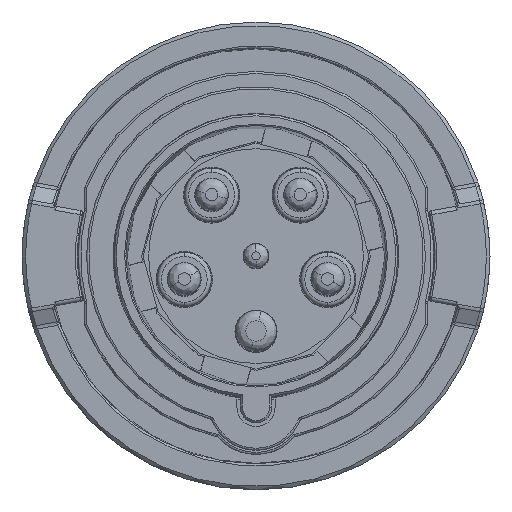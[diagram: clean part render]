
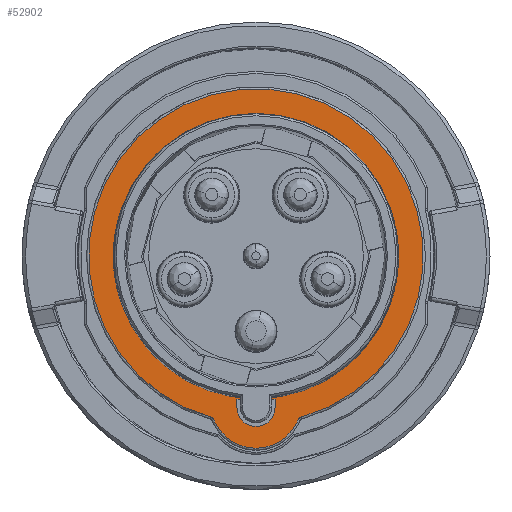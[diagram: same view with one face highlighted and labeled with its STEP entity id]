
A CAD part, top view. The second image highlights one B-rep face of the part: STEP entity #52902.
In plain terms, the highlighted planar face has unit normal (0, 0, 1).
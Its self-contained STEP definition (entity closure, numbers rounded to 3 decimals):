
#1835=CARTESIAN_POINT('',(-11.133,-39.979,4.3));
#1836=DIRECTION('',(0.,0.,1.));
#1837=DIRECTION('',(0.928,0.373,0.));
#1838=AXIS2_PLACEMENT_3D('',#1835,#1836,#1837);
#1843=CARTESIAN_POINT('',(0.,0.,4.3));
#1844=DIRECTION('',(0.,0.,-1.));
#1845=DIRECTION('',(-0.268,-0.963,0.));
#1846=AXIS2_PLACEMENT_3D('',#1843,#1844,#1845);
#1851=CARTESIAN_POINT('',(0.,0.,4.3));
#1852=DIRECTION('',(0.,0.,-1.));
#1853=DIRECTION('',(-0.268,0.963,0.));
#1854=AXIS2_PLACEMENT_3D('',#1851,#1852,#1853);
#1859=CARTESIAN_POINT('',(11.133,-39.979,4.3));
#1860=DIRECTION('',(0.,0.,1.));
#1861=DIRECTION('',(-0.268,0.963,0.));
#1862=AXIS2_PLACEMENT_3D('',#1859,#1860,#1861);
#1867=CARTESIAN_POINT('',(0.,-35.5,4.3));
#1868=DIRECTION('',(0.,0.,-1.));
#1869=DIRECTION('',(0.928,-0.373,0.));
#1870=AXIS2_PLACEMENT_3D('',#1867,#1868,#1869);
#1875=CARTESIAN_POINT('',(0.,0.,4.3));
#1876=DIRECTION('',(0.,0.,1.));
#1877=DIRECTION('',(1.,0.,0.));
#1878=AXIS2_PLACEMENT_3D('',#1875,#1876,#1877);
#1883=CARTESIAN_POINT('',(0.,0.,4.3));
#1884=DIRECTION('',(0.,0.,1.));
#1885=DIRECTION('',(-1.,0.,0.));
#1886=AXIS2_PLACEMENT_3D('',#1883,#1884,#1885);
#1891=CARTESIAN_POINT('',(0.,0.,4.3));
#1892=DIRECTION('',(0.,0.,-1.));
#1893=DIRECTION('',(0.132,-0.991,0.));
#1894=AXIS2_PLACEMENT_3D('',#1891,#1892,#1893);
#1899=DIRECTION('',(0.,-1.,0.));
#1900=VECTOR('',#1899,2.004);
#1901=CARTESIAN_POINT('',(-4.6,-34.646,4.3));
#1902=LINE('17322',#1901,#1900);
#1906=CARTESIAN_POINT('',(0.,-36.65,4.3));
#1907=DIRECTION('',(0.,0.,1.));
#1908=DIRECTION('',(-1.,0.,0.));
#1909=AXIS2_PLACEMENT_3D('',#1906,#1907,#1908);
#1914=CARTESIAN_POINT('',(0.,-36.65,4.3));
#1915=DIRECTION('',(0.,0.,1.));
#1916=DIRECTION('',(0.,-1.,0.));
#1917=AXIS2_PLACEMENT_3D('',#1914,#1915,#1916);
#1922=DIRECTION('',(0.,1.,0.));
#1923=VECTOR('',#1922,2.004);
#1924=CARTESIAN_POINT('',(4.6,-36.65,4.3));
#1925=LINE('17325',#1924,#1923);
#46268=CARTESIAN_POINT('',(-34.55,0.,4.3));
#46269=VERTEX_POINT('',#46268);
#46270=CARTESIAN_POINT('',(34.55,0.,4.3));
#46271=VERTEX_POINT('',#46270);
#46438=CARTESIAN_POINT('',(-10.205,-39.606,4.3));
#46439=CARTESIAN_POINT('',(-10.865,-39.016,4.3));
#46440=VERTEX_POINT('',#46438);
#46441=VERTEX_POINT('',#46439);
#46442=CARTESIAN_POINT('',(-10.865,39.016,4.3));
#46443=CARTESIAN_POINT('',(10.865,-39.016,4.3));
#46444=VERTEX_POINT('',#46442);
#46445=VERTEX_POINT('',#46443);
#46446=CARTESIAN_POINT('',(10.205,-39.606,4.3));
#46447=VERTEX_POINT('',#46446);
#46448=CARTESIAN_POINT('',(4.6,-34.646,4.3));
#46449=CARTESIAN_POINT('',(-4.6,-34.646,4.3));
#46450=VERTEX_POINT('',#46448);
#46451=VERTEX_POINT('',#46449);
#46452=CARTESIAN_POINT('',(-4.6,-36.65,4.3));
#46453=VERTEX_POINT('',#46452);
#46454=CARTESIAN_POINT('',(0.,-41.25,4.3));
#46455=CARTESIAN_POINT('',(4.6,-36.65,4.3));
#46456=VERTEX_POINT('',#46454);
#46457=VERTEX_POINT('',#46455);
#52869=CARTESIAN_POINT('',(0.,0.,4.3));
#52870=DIRECTION('',(0.,0.,-1.));
#52871=DIRECTION('',(1.,0.,0.));
#52872=AXIS2_PLACEMENT_3D('',#52869,#52870,#52871);
#52873=PLANE('22246',#52872);
#52875=ORIENTED_EDGE('17316',*,*,#52874,.T.);
#52877=ORIENTED_EDGE('17318',*,*,#52876,.T.);
#52879=ORIENTED_EDGE('17317',*,*,#52878,.T.);
#52881=ORIENTED_EDGE('17319',*,*,#52880,.T.);
#52883=ORIENTED_EDGE('17320',*,*,#52882,.T.);
#52884=EDGE_LOOP('22246',(#52875,#52877,#52879,#52881,#52883));
#52885=FACE_OUTER_BOUND('22246',#52884,.F.);
#52886=ORIENTED_EDGE('17147',*,*,#51186,.T.);
#52887=ORIENTED_EDGE('17169',*,*,#51248,.T.);
#52888=EDGE_LOOP('22246',(#52886,#52887));
#52889=FACE_BOUND('22246',#52888,.F.);
#52891=ORIENTED_EDGE('17321',*,*,#52890,.T.);
#52893=ORIENTED_EDGE('17322',*,*,#52892,.T.);
#52895=ORIENTED_EDGE('17324',*,*,#52894,.T.);
#52897=ORIENTED_EDGE('17323',*,*,#52896,.T.);
#52899=ORIENTED_EDGE('17325',*,*,#52898,.T.);
#52900=EDGE_LOOP('22246',(#52891,#52893,#52895,#52897,#52899));
#52901=FACE_BOUND('22246',#52900,.F.);
#1839=CIRCLE('17316',#1838,1.);
#1847=CIRCLE('17318',#1846,40.5);
#1855=CIRCLE('17317',#1854,40.5);
#1863=CIRCLE('17319',#1862,1.);
#1871=CIRCLE('17320',#1870,11.);
#1879=CIRCLE('17147',#1878,34.55);
#1887=CIRCLE('17169',#1886,34.55);
#1895=CIRCLE('17321',#1894,34.95);
#1910=CIRCLE('17324',#1909,4.6);
#1918=CIRCLE('17323',#1917,4.6);
#51186=EDGE_CURVE('17147',#46271,#46269,#1879,.T.);
#51248=EDGE_CURVE('17169',#46269,#46271,#1887,.T.);
#52874=EDGE_CURVE('17316',#46440,#46441,#1839,.T.);
#52876=EDGE_CURVE('17318',#46441,#46444,#1847,.T.);
#52878=EDGE_CURVE('17317',#46444,#46445,#1855,.T.);
#52880=EDGE_CURVE('17319',#46445,#46447,#1863,.T.);
#52882=EDGE_CURVE('17320',#46447,#46440,#1871,.T.);
#52890=EDGE_CURVE('17321',#46450,#46451,#1895,.T.);
#52892=EDGE_CURVE('17322',#46451,#46453,#1902,.T.);
#52894=EDGE_CURVE('17324',#46453,#46456,#1910,.T.);
#52896=EDGE_CURVE('17323',#46456,#46457,#1918,.T.);
#52898=EDGE_CURVE('17325',#46457,#46450,#1925,.T.);
#52902=ADVANCED_FACE('22246',(#52885,#52889,#52901),#52873,.F.);
